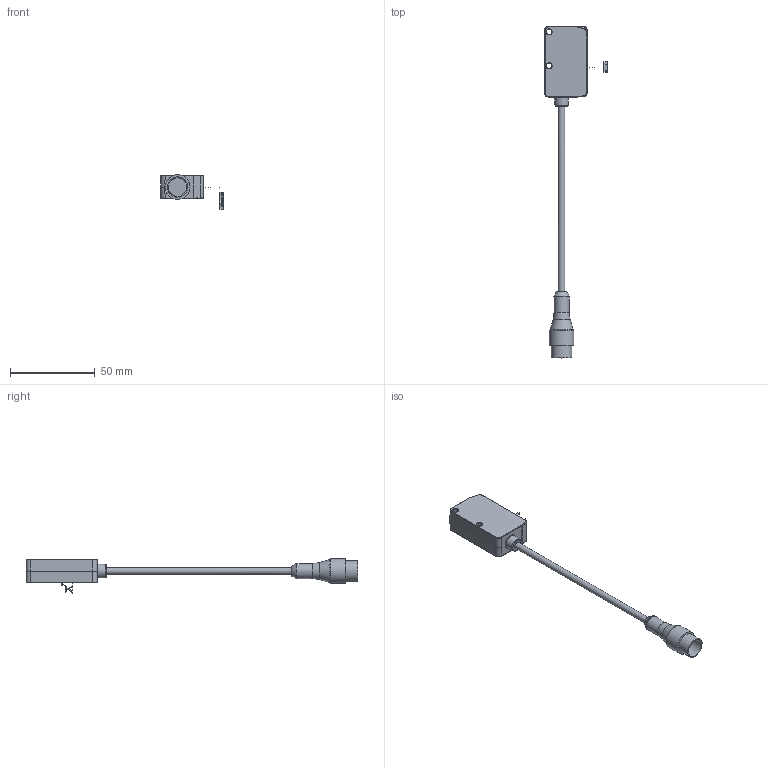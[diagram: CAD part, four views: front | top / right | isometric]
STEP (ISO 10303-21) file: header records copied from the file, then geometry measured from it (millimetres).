
FILE_DESCRIPTION(/* description */ (''),/* implementation_level */ '2;1');
FILE_NAME(/* name */ 'DSD-1029.stp',/* time_stamp */ '2020-09-23T12:17:18+02:00',/* author */ (''),/* organization */ (''),/* preprocessor_version */ 'ST-DEVELOPER v16.7',/* originating_system */ 'SIEMENS PLM Software NX 12.0',/* authorisation */ '');
FILE_SCHEMA (('AUTOMOTIVE_DESIGN { 1 0 10303 214 3 1 1 1 }'));
Length unit declared in the file: millimetre
Products named in the file (1): MBra179CE7913kes
Bounding box: 37 x 195.9 x 20.3 mm (x, y, z)
Volume: 18882.3 mm3; surface area: 7948.3 mm2
Topology: 5 solids, 5 shells, 335 faces, 849 edges, 531 vertices
Faces by surface type: bspline 334, plane 1
Entity records: 13406 total; most frequent: CARTESIAN_POINT 5926, ORIENTED_EDGE 1642, EDGE_CURVE 821, VERTEX_POINT 530, B_SPLINE_CURVE_WITH_KNOTS 527, EDGE_LOOP 371, PRESENTATION_STYLE_ASSIGNMENT 339, SURFACE_STYLE_USAGE 339
